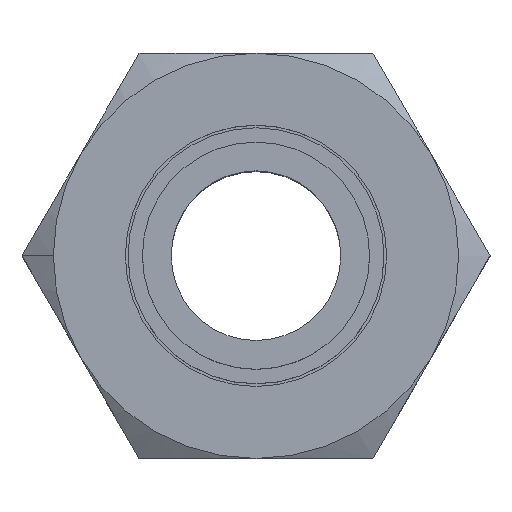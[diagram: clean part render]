
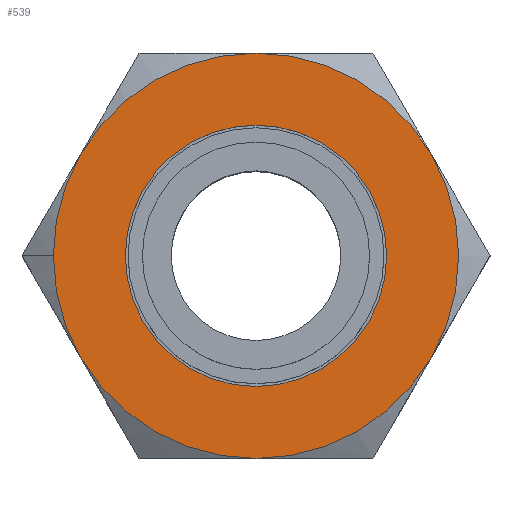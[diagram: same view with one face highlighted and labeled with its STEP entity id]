
A CAD part, top view. The second image highlights one B-rep face of the part: STEP entity #539.
In plain terms, the highlighted planar face has unit normal (0, 0, 1).
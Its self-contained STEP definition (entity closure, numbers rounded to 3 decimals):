
#16 = FACE_OUTER_BOUND ( 'NONE', #537, .T. ) ;
#17 = FACE_BOUND ( 'NONE', #536, .T. ) ;
#18 = DIRECTION ( 'NONE',  ( 0., 0., -1. ) ) ;
#19 = CARTESIAN_POINT ( 'NONE',  ( 0., 19., 9. ) ) ;
#20 = AXIS2_PLACEMENT_3D ( 'NONE', #19, #18, #2312 ) ;
#23 = PLANE ( 'NONE',  #20 ) ;
#287 = DIRECTION ( 'NONE',  ( 1., 0., 0. ) ) ;
#288 = DIRECTION ( 'NONE',  ( 0., 0., 1. ) ) ;
#289 = AXIS2_PLACEMENT_3D ( 'NONE', #297, #288, #287 ) ;
#290 = CIRCLE ( 'NONE', #289, 12.25 ) ;
#297 = CARTESIAN_POINT ( 'NONE',  ( 0., 0., 9. ) ) ;
#355 = CARTESIAN_POINT ( 'NONE',  ( -16.454, -9.5, 9. ) ) ;
#366 = CARTESIAN_POINT ( 'NONE',  ( 0., 19., 9. ) ) ;
#536 = EDGE_LOOP ( 'NONE', ( #545, #543 ) ) ;
#537 = EDGE_LOOP ( 'NONE', ( #538, #546, #547, #792, #793, #794, #795 ) ) ;
#538 = ORIENTED_EDGE ( 'NONE', *, *, #1409, .T. ) ;
#539 = ADVANCED_FACE ( 'NONE', ( #17, #16 ), #23, .F. ) ;
#543 = ORIENTED_EDGE ( 'NONE', *, *, #1387, .F. ) ;
#545 = ORIENTED_EDGE ( 'NONE', *, *, #791, .F. ) ;
#546 = ORIENTED_EDGE ( 'NONE', *, *, #1427, .T. ) ;
#547 = ORIENTED_EDGE ( 'NONE', *, *, #1471, .T. ) ;
#700 = CARTESIAN_POINT ( 'NONE',  ( 12.25, 0., 9. ) ) ;
#701 = DIRECTION ( 'NONE',  ( 1., 0., 0. ) ) ;
#705 = CIRCLE ( 'NONE', #732, 19. ) ;
#706 = CARTESIAN_POINT ( 'NONE',  ( 0., 0., 9. ) ) ;
#730 = DIRECTION ( 'NONE',  ( 1., 0., 0. ) ) ;
#731 = DIRECTION ( 'NONE',  ( 0., 0., 1. ) ) ;
#732 = AXIS2_PLACEMENT_3D ( 'NONE', #706, #731, #730 ) ;
#735 = DIRECTION ( 'NONE',  ( 1., 0., 0. ) ) ;
#736 = DIRECTION ( 'NONE',  ( 0., 0., 1. ) ) ;
#737 = CARTESIAN_POINT ( 'NONE',  ( 0., 0., 9. ) ) ;
#738 = AXIS2_PLACEMENT_3D ( 'NONE', #737, #736, #735 ) ;
#739 = CIRCLE ( 'NONE', #738, 19. ) ;
#791 = EDGE_CURVE ( 'NONE', #1388, #1497, #290, .T. ) ;
#792 = ORIENTED_EDGE ( 'NONE', *, *, #1431, .T. ) ;
#793 = ORIENTED_EDGE ( 'NONE', *, *, #1451, .T. ) ;
#794 = ORIENTED_EDGE ( 'NONE', *, *, #1454, .T. ) ;
#795 = ORIENTED_EDGE ( 'NONE', *, *, #1400, .T. ) ;
#800 = CARTESIAN_POINT ( 'NONE',  ( 0., 0., 9. ) ) ;
#801 = CARTESIAN_POINT ( 'NONE',  ( 0., 0., 9. ) ) ;
#804 = CIRCLE ( 'NONE', #807, 19. ) ;
#805 = DIRECTION ( 'NONE',  ( 1., 0., 0. ) ) ;
#806 = DIRECTION ( 'NONE',  ( 0., 0., 1. ) ) ;
#807 = AXIS2_PLACEMENT_3D ( 'NONE', #857, #806, #805 ) ;
#817 = DIRECTION ( 'NONE',  ( 1., 0., 0. ) ) ;
#818 = DIRECTION ( 'NONE',  ( 0., 0., 1. ) ) ;
#819 = CARTESIAN_POINT ( 'NONE',  ( 0., 0., 9. ) ) ;
#820 = AXIS2_PLACEMENT_3D ( 'NONE', #819, #818, #817 ) ;
#827 = DIRECTION ( 'NONE',  ( 1., 0., 0. ) ) ;
#828 = DIRECTION ( 'NONE',  ( 0., 0., 1. ) ) ;
#829 = AXIS2_PLACEMENT_3D ( 'NONE', #801, #828, #827 ) ;
#831 = CARTESIAN_POINT ( 'NONE',  ( -16.454, 9.5, 9. ) ) ;
#857 = CARTESIAN_POINT ( 'NONE',  ( 0., 0., 9. ) ) ;
#859 = CIRCLE ( 'NONE', #829, 19. ) ;
#888 = CIRCLE ( 'NONE', #896, 19. ) ;
#894 = DIRECTION ( 'NONE',  ( 1., 0., 0. ) ) ;
#895 = DIRECTION ( 'NONE',  ( 0., 0., 1. ) ) ;
#896 = AXIS2_PLACEMENT_3D ( 'NONE', #800, #895, #894 ) ;
#904 = CIRCLE ( 'NONE', #820, 19. ) ;
#914 = CARTESIAN_POINT ( 'NONE',  ( 16.454, -9.5, 9. ) ) ;
#925 = DIRECTION ( 'NONE',  ( 0., 0., 1. ) ) ;
#926 = CARTESIAN_POINT ( 'NONE',  ( 0., 0., 9. ) ) ;
#927 = AXIS2_PLACEMENT_3D ( 'NONE', #926, #925, #701 ) ;
#928 = CIRCLE ( 'NONE', #927, 12.25 ) ;
#1355 = VERTEX_POINT ( 'NONE', #355 ) ;
#1365 = VERTEX_POINT ( 'NONE', #366 ) ;
#1385 = VERTEX_POINT ( 'NONE', #914 ) ;
#1387 = EDGE_CURVE ( 'NONE', #1497, #1388, #928, .T. ) ;
#1388 = VERTEX_POINT ( 'NONE', #700 ) ;
#1400 = EDGE_CURVE ( 'NONE', #1385, #1482, #739, .T. ) ;
#1409 = EDGE_CURVE ( 'NONE', #1482, #1365, #705, .T. ) ;
#1427 = EDGE_CURVE ( 'NONE', #1365, #1450, #888, .T. ) ;
#1431 = EDGE_CURVE ( 'NONE', #1473, #1355, #904, .T. ) ;
#1450 = VERTEX_POINT ( 'NONE', #831 ) ;
#1451 = EDGE_CURVE ( 'NONE', #1355, #1464, #804, .T. ) ;
#1454 = EDGE_CURVE ( 'NONE', #1464, #1385, #859, .T. ) ;
#1464 = VERTEX_POINT ( 'NONE', #1829 ) ;
#1471 = EDGE_CURVE ( 'NONE', #1450, #1473, #1643, .T. ) ;
#1473 = VERTEX_POINT ( 'NONE', #1700 ) ;
#1482 = VERTEX_POINT ( 'NONE', #1709 ) ;
#1497 = VERTEX_POINT ( 'NONE', #1757 ) ;
#1643 = CIRCLE ( 'NONE', #1654, 19. ) ;
#1648 = CARTESIAN_POINT ( 'NONE',  ( 0., 0., 9. ) ) ;
#1654 = AXIS2_PLACEMENT_3D ( 'NONE', #1648, #1664, #1663 ) ;
#1663 = DIRECTION ( 'NONE',  ( 1., 0., 0. ) ) ;
#1664 = DIRECTION ( 'NONE',  ( 0., 0., 1. ) ) ;
#1700 = CARTESIAN_POINT ( 'NONE',  ( -19., 0., 9. ) ) ;
#1709 = CARTESIAN_POINT ( 'NONE',  ( 16.454, 9.5, 9. ) ) ;
#1757 = CARTESIAN_POINT ( 'NONE',  ( -12.25, 0., 9. ) ) ;
#1829 = CARTESIAN_POINT ( 'NONE',  ( 0., -19., 9. ) ) ;
#2312 = DIRECTION ( 'NONE',  ( -1., 0., 0. ) ) ;
